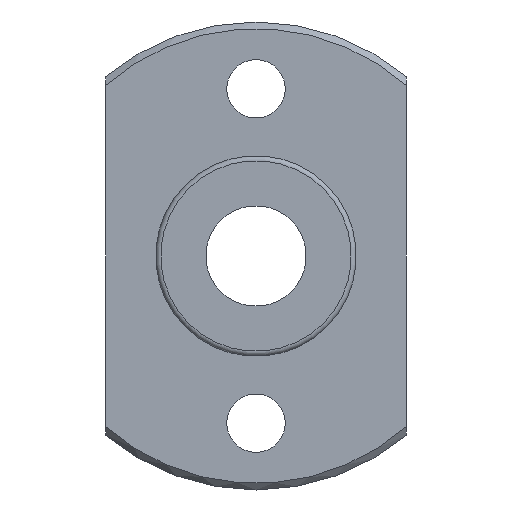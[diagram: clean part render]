
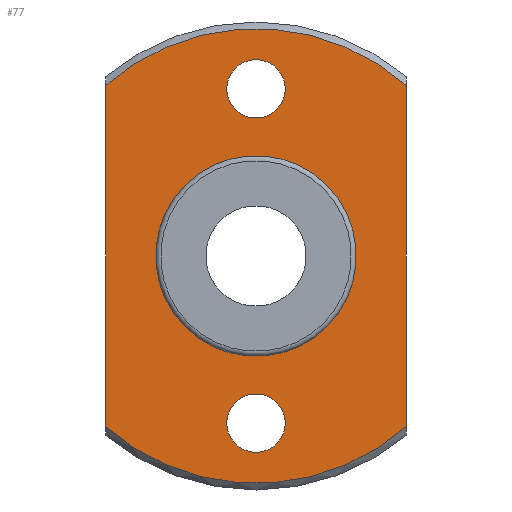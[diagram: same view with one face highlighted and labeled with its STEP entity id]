
A CAD part, left-side view. The second image highlights one B-rep face of the part: STEP entity #77.
In plain terms, the highlighted planar face has unit normal (-1, 0, 0).
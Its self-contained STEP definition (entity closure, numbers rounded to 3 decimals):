
#77=ADVANCED_FACE('',(#102,#103,#104,#105),#106,.T.);
#102=FACE_BOUND('',#164,.T.);
#103=FACE_BOUND('',#165,.T.);
#104=FACE_BOUND('',#166,.T.);
#105=FACE_OUTER_BOUND('',#167,.T.);
#106=PLANE('',#168);
#164=EDGE_LOOP('',(#240));
#165=EDGE_LOOP('',(#241));
#166=EDGE_LOOP('',(#242));
#167=EDGE_LOOP('',(#243,#244,#245,#246));
#168=AXIS2_PLACEMENT_3D('',#247,#248,#249);
#240=ORIENTED_EDGE('',*,*,#377,.T.);
#241=ORIENTED_EDGE('',*,*,#378,.T.);
#242=ORIENTED_EDGE('',*,*,#379,.T.);
#243=ORIENTED_EDGE('',*,*,#376,.F.);
#244=ORIENTED_EDGE('',*,*,#380,.T.);
#245=ORIENTED_EDGE('',*,*,#381,.F.);
#246=ORIENTED_EDGE('',*,*,#371,.T.);
#247=CARTESIAN_POINT('',(-5.0,6.841,-6.841));
#248=DIRECTION('',(-1.0,0.0,0.));
#249=DIRECTION('',(0.,0.707,0.707));
#371=EDGE_CURVE('',#416,#414,#417,.T.);
#376=EDGE_CURVE('',#423,#414,#425,.T.);
#377=EDGE_CURVE('',#426,#426,#427,.T.);
#378=EDGE_CURVE('',#428,#428,#429,.F.);
#379=EDGE_CURVE('',#430,#430,#431,.F.);
#380=EDGE_CURVE('',#423,#432,#433,.T.);
#381=EDGE_CURVE('',#416,#432,#434,.T.);
#414=VERTEX_POINT('',#492);
#416=VERTEX_POINT('',#497);
#417=LINE('',#498,#499);
#423=VERTEX_POINT('',#509);
#425=CIRCLE('',#514,13.6);
#426=VERTEX_POINT('',#515);
#427=CIRCLE('',#516,5.75);
#428=VERTEX_POINT('',#517);
#429=CIRCLE('',#518,1.75);
#430=VERTEX_POINT('',#519);
#431=CIRCLE('',#520,1.75);
#432=VERTEX_POINT('',#521);
#433=LINE('',#522,#523);
#434=CIRCLE('',#524,13.6);
#492=CARTESIAN_POINT('',(-5.0,9.0,-10.196));
#497=CARTESIAN_POINT('',(-5.0,9.0,10.196));
#498=CARTESIAN_POINT('',(-5.0,9.0,-6.841));
#499=VECTOR('',#579,1.0);
#509=CARTESIAN_POINT('',(-5.0,-9.0,-10.196));
#514=AXIS2_PLACEMENT_3D('',#584,#585,#586);
#515=CARTESIAN_POINT('',(-5.0,4.066,-4.066));
#516=AXIS2_PLACEMENT_3D('',#587,#588,#589);
#517=CARTESIAN_POINT('',(-5.0,1.237,11.237));
#518=AXIS2_PLACEMENT_3D('',#590,#591,#592);
#519=CARTESIAN_POINT('',(-5.0,1.237,-8.763));
#520=AXIS2_PLACEMENT_3D('',#593,#594,#595);
#521=CARTESIAN_POINT('',(-5.0,-9.0,10.196));
#522=CARTESIAN_POINT('',(-5.0,-9.0,-6.841));
#523=VECTOR('',#596,1.0);
#524=AXIS2_PLACEMENT_3D('',#597,#598,#599);
#579=DIRECTION('',(0.,0.0,-1.0));
#584=CARTESIAN_POINT('',(-5.0,0.,0.));
#585=DIRECTION('',(1.0,0.0,0.));
#586=DIRECTION('',(0.,0.707,-0.707));
#587=CARTESIAN_POINT('',(-5.0,0.,0.));
#588=DIRECTION('',(1.0,0.0,0.));
#589=DIRECTION('',(0.,0.707,-0.707));
#590=CARTESIAN_POINT('',(-5.0,0.,10.0));
#591=DIRECTION('',(-1.0,0.0,0.));
#592=DIRECTION('',(0.,0.707,0.707));
#593=CARTESIAN_POINT('',(-5.0,0.,-10.0));
#594=DIRECTION('',(-1.0,0.0,0.));
#595=DIRECTION('',(0.,0.707,0.707));
#596=DIRECTION('',(0.,0.0,1.0));
#597=CARTESIAN_POINT('',(-5.0,0.,0.));
#598=DIRECTION('',(1.0,0.0,0.));
#599=DIRECTION('',(0.,0.707,-0.707));
